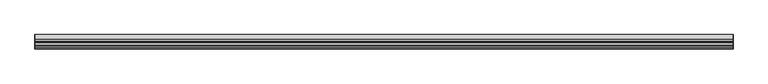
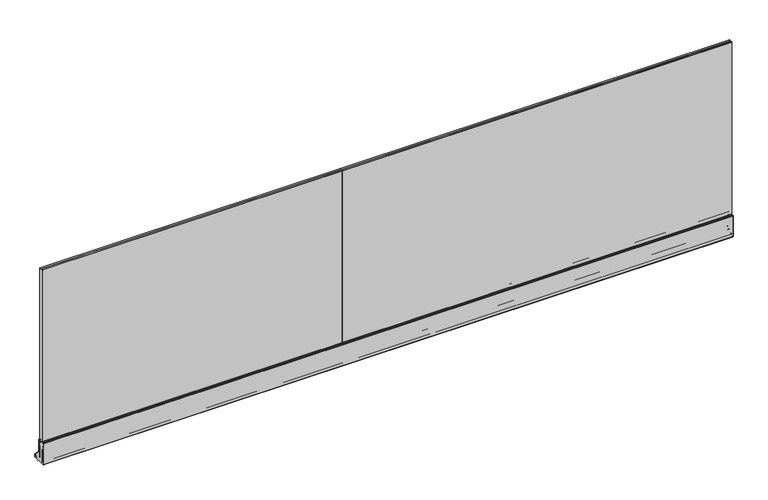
"""IFC4 building model written with IfcOpenShell, lengths in millimetres: railing geometry, Glass Rail EXL-12481 h=1100mm."""

from ifc_helpers import new_model, si_unit, point, frame, frame_2d, origin, place, context, project, spatial, polyline, circle_curve, trimmed, segment, composite_curve, outline, extrude, source, transform, mapped, element, save


def railing_be181984(model_context):
    return source(origin(), model_context, "Body", "SweptSolid", [
        extrude(outline(composite_curve([segment(trimmed(circle_curve(frame_2d((18775.6206658, 4319.5)), 0.5), [point((18775.6206658, 4320.0))], [point((18775.6206658, 4319.0))], False, "CARTESIAN"), True, "CONTINUOUS"), segment(polyline([(18775.6206658, 4319.0), (18775.6206658, 4300.0), (18774.6206658, 4299.4226497), (18778.4206658, 4276.5), (18778.4206658, 4211.0)]), True, "CONTINUOUS"), segment(trimmed(circle_curve(frame_2d((18779.4206658, 4211.0)), 1.0), [point((18778.4206658, 4211.0))], [point((18779.4206658, 4210.0))], True, "CARTESIAN"), True, "CONTINUOUS"), segment(polyline([(18779.4206658, 4210.0), (18802.4206658, 4210.0)]), True, "CONTINUOUS"), segment(trimmed(circle_curve(frame_2d((18802.4206658, 4211.0)), 1.0), [point((18802.4206658, 4210.0))], [point((18803.4206658, 4211.0))], True, "CARTESIAN"), True, "CONTINUOUS"), segment(polyline([(18803.4206658, 4211.0), (18803.4206658, 4230.0), (18807.4206658, 4319.0)]), True, "CONTINUOUS"), segment(trimmed(circle_curve(frame_2d((18807.4206658, 4319.5)), 0.5), [point((18807.4206658, 4319.0))], [point((18807.4206658, 4320.0))], False, "CARTESIAN"), True, "CONTINUOUS"), segment(polyline([(18807.4206658, 4320.0), (18810.9206658, 4320.0)]), True, "CONTINUOUS"), segment(trimmed(circle_curve(frame_2d((18810.9206658, 4319.0)), 1.0), [point((18810.9206658, 4320.0))], [point((18811.9206658, 4319.0))], False, "CARTESIAN"), True, "CONTINUOUS"), segment(polyline([(18811.9206658, 4319.0), (18811.9206658, 4240.6529004), (18814.9156406, 4237.6579257), (18814.9156406, 4233.415285), (18812.7742192, 4235.5567063)]), True, "CONTINUOUS"), segment(trimmed(circle_curve(frame_2d((18812.4206658, 4235.2031529)), 0.5), [point((18812.7742192, 4235.5567063))], [point((18811.9206658, 4235.2031529))], True, "CARTESIAN"), True, "CONTINUOUS"), segment(polyline([(18811.9206658, 4235.2031529), (18811.9206658, 4209.5)]), True, "CONTINUOUS"), segment(trimmed(circle_curve(frame_2d((18812.9206658, 4209.5)), 1.0), [point((18811.9206658, 4209.5))], [point((18812.9206658, 4208.5))], True, "CARTESIAN"), True, "CONTINUOUS"), segment(polyline([(18812.9206658, 4208.5), (18838.6238188, 4208.5)]), True, "CONTINUOUS"), segment(trimmed(circle_curve(frame_2d((18838.6238188, 4209.0)), 0.5), [point((18838.6238188, 4208.5))], [point((18838.9773722, 4209.3535534))], True, "CARTESIAN"), True, "CONTINUOUS"), segment(polyline([(18838.9773722, 4209.3535534), (18836.8359508, 4211.4949747), (18841.0785915, 4211.4949747), (18844.0735662, 4208.5), (18846.9206658, 4208.5), (18846.9206658, 4201.0)]), True, "CONTINUOUS"), segment(trimmed(circle_curve(frame_2d((18845.9206658, 4201.0)), 1.0), [point((18846.9206658, 4201.0))], [point((18845.9206658, 4200.0))], False, "CARTESIAN"), True, "CONTINUOUS"), segment(polyline([(18845.9206658, 4200.0), (18770.9206658, 4200.0)]), True, "CONTINUOUS"), segment(trimmed(circle_curve(frame_2d((18770.9206658, 4201.0)), 1.0), [point((18770.9206658, 4200.0))], [point((18769.9206658, 4201.0))], False, "CARTESIAN"), True, "CONTINUOUS"), segment(polyline([(18769.9206658, 4201.0), (18769.9206658, 4319.0)]), True, "CONTINUOUS"), segment(trimmed(circle_curve(frame_2d((18770.9206658, 4319.0)), 1.0), [point((18769.9206658, 4319.0))], [point((18770.9206658, 4320.0))], False, "CARTESIAN"), True, "CONTINUOUS"), segment(polyline([(18770.9206658, 4320.0), (18775.6206658, 4320.0)]), True, "CONTINUOUS")], self_intersect=False)), frame((16943.1337784, 0.0, 0.0), z_axis=(1.0, 0.0, 0.0), x_axis=(0.0, 1.0, 0.0)), (0.0, 0.0, 1.0), 3700.0),
        extrude(outline(composite_curve([segment(trimmed(circle_curve(frame_2d((18813.5452258, 4232.3277129)), 0.3), [point((18813.7573578, 4232.1155808))], [point((18813.255448, 4232.4053586))], False, "CARTESIAN"), True, "CONTINUOUS"), segment(polyline([(18813.255448, 4232.4053586), (18813.4833084, 4233.2557449), (18820.8991363, 4240.6715729), (18819.6707092, 4241.9), (18812.1334509, 4241.9), (18812.1334509, 4243.5), (18820.3334509, 4243.5), (18846.9206658, 4216.912785), (18846.9206658, 4208.712785), (18845.3206658, 4208.712785), (18845.3206658, 4216.2500433), (18844.0922387, 4217.4784705), (18836.6764108, 4210.0626425), (18835.8260244, 4209.8347822)]), True, "CONTINUOUS"), segment(trimmed(circle_curve(frame_2d((18835.7483787, 4210.1245599)), 0.3), [point((18835.8260244, 4209.8347822))], [point((18835.5362467, 4210.336692))], False, "CARTESIAN"), True, "CONTINUOUS"), segment(polyline([(18835.5362467, 4210.336692), (18843.3851319, 4218.1855772), (18821.6062431, 4239.9644661), (18813.7573578, 4232.1155808)]), True, "CONTINUOUS")], self_intersect=False)), frame((16943.1337784, 0.0, 0.0), z_axis=(1.0, 0.0, 0.0), x_axis=(0.0, 1.0, 0.0)), (0.0, 0.0, 1.0), 3700.0),
        extrude(outline(composite_curve([segment(trimmed(circle_curve(frame_2d((18775.6904567, 4319.85)), 0.5), [point((18776.1904567, 4319.85))], [point((18775.6904567, 4320.35))], True, "CARTESIAN"), True, "CONTINUOUS"), segment(polyline([(18775.6904567, 4320.35), (18774.4402309, 4320.239686)]), True, "CONTINUOUS"), segment(trimmed(circle_curve(frame_2d((18774.3888785, 4320.8216792)), 0.5842544), [point((18774.4402309, 4320.239686))], [point((18774.3126303, 4321.4009367))], False, "CARTESIAN"), True, "CONTINUOUS"), segment(trimmed(circle_curve(frame_2d((18764.4674797, 4396.1944554)), 75.4386998), [point((18774.3126303, 4321.4009367))], [point((18781.2746398, 4322.6518365))], True, "CARTESIAN"), True, "CONTINUOUS"), segment(trimmed(circle_curve(frame_2d((18778.7275554, 4330.9804663)), 8.7094037), [point((18781.2746398, 4322.6518365))], [point((18782.3309733, 4323.0514631))], True, "CARTESIAN"), True, "CONTINUOUS"), segment(trimmed(circle_curve(frame_2d((18782.4648996, 4322.7475881)), 0.3320787), [point((18782.3309733, 4323.0514631))], [point((18782.7010165, 4322.5140821))], False, "CARTESIAN"), True, "CONTINUOUS"), segment(polyline([(18782.7010165, 4322.5140821), (18781.5206658, 4321.6016227), (18781.5206658, 4213.0), (18800.5206658, 4213.0)]), True, "CONTINUOUS"), segment(trimmed(circle_curve(frame_2d((18800.5206658, 4212.0)), 1.0), [point((18800.5206658, 4213.0))], [point((18801.5206658, 4212.0))], False, "CARTESIAN"), True, "CONTINUOUS"), segment(polyline([(18801.5206658, 4212.0), (18801.5206658, 4211.0)]), True, "CONTINUOUS"), segment(trimmed(circle_curve(frame_2d((18800.5206658, 4211.0)), 1.0), [point((18801.5206658, 4211.0))], [point((18800.5206658, 4210.0))], False, "CARTESIAN"), True, "CONTINUOUS"), segment(polyline([(18800.5206658, 4210.0), (18779.4206658, 4210.0)]), True, "CONTINUOUS"), segment(trimmed(circle_curve(frame_2d((18779.4206658, 4211.0)), 1.0), [point((18779.4206658, 4210.0))], [point((18778.4206658, 4211.0))], False, "CARTESIAN"), True, "CONTINUOUS"), segment(polyline([(18778.4206658, 4211.0), (18778.4206658, 4276.5), (18774.6206658, 4299.4226497), (18775.6206658, 4300.0), (18775.6206658, 4318.4302091), (18776.1904567, 4319.0), (18776.1904567, 4319.85)]), True, "CONTINUOUS")], self_intersect=False)), frame((16943.1337784, 0.0, 0.0), z_axis=(1.0, 0.0, 0.0), x_axis=(0.0, 1.0, 0.0)), (0.0, 0.0, 1.0), 3700.0),
        extrude(outline(composite_curve([segment(trimmed(circle_curve(frame_2d((18804.0250473, 4308.5372817)), 1.5), [point((18804.0250473, 4307.0372817))], [point((18802.5250473, 4308.5372817))], False, "CARTESIAN"), True, "CONTINUOUS"), segment(polyline([(18802.5250473, 4308.5372817), (18802.5250473, 4310.9416639), (18801.6025599, 4312.0608288), (18802.6115713, 4313.2849649), (18801.4214939, 4314.4750423), (18802.6286007, 4315.6821491), (18801.4214939, 4316.8892559), (18802.6286007, 4318.0963627), (18801.4276708, 4319.2972925), (18802.295154, 4320.227594)]), True, "CONTINUOUS"), segment(trimmed(circle_curve(frame_2d((18801.4408553, 4320.7517158)), 1.0022624), [point((18802.295154, 4320.227594))], [point((18802.1521972, 4321.4577771))], True, "CARTESIAN"), True, "CONTINUOUS"), segment(polyline([(18802.1521972, 4321.4577771), (18801.0444875, 4322.3140821)]), True, "CONTINUOUS"), segment(trimmed(circle_curve(frame_2d((18801.2806043, 4322.5475881)), 0.3320787), [point((18801.0444875, 4322.3140821))], [point((18801.4145307, 4322.8514631))], False, "CARTESIAN"), True, "CONTINUOUS"), segment(trimmed(circle_curve(frame_2d((18805.0179486, 4330.7804663)), 8.7094037), [point((18801.4145307, 4322.8514631))], [point((18802.4708642, 4322.4518365))], True, "CARTESIAN"), True, "CONTINUOUS"), segment(trimmed(circle_curve(frame_2d((18817.2893145, 4379.3319631)), 58.7786974), [point((18802.4708642, 4322.4518365))], [point((18808.6759928, 4321.1877806))], True, "CARTESIAN"), True, "CONTINUOUS"), segment(trimmed(circle_curve(frame_2d((18808.5906749, 4320.6118425)), 0.5822232), [point((18808.6759928, 4321.1877806))], [point((18808.5395011, 4320.0318726))], False, "CARTESIAN"), True, "CONTINUOUS"), segment(polyline([(18808.5395011, 4320.0318726), (18807.2007235, 4320.15)]), True, "CONTINUOUS"), segment(trimmed(circle_curve(frame_2d((18807.2007235, 4319.65)), 0.5), [point((18807.2007235, 4320.15))], [point((18806.7007235, 4319.65))], True, "CARTESIAN"), True, "CONTINUOUS"), segment(polyline([(18806.7007235, 4319.65), (18806.7007235, 4318.8630833), (18807.2705144, 4318.2932925), (18807.2705144, 4310.3051746), (18805.9257243, 4307.0372817), (18804.0250473, 4307.0372817)]), True, "CONTINUOUS")], self_intersect=False)), frame((16943.1337784, 0.0, 0.0), z_axis=(1.0, 0.0, 0.0), x_axis=(0.0, 1.0, 0.0)), (0.0, 0.0, 1.0), 3700.0),
        extrude(outline(composite_curve([segment(trimmed(circle_curve(frame_2d((18802.2324164, 4289.5)), 0.5), [point((18801.7324164, 4289.5))], [point((18802.2324164, 4290.0))], False, "CARTESIAN"), True, "CONTINUOUS"), segment(polyline([(18802.2324164, 4290.0), (18805.5943184, 4290.0)]), True, "CONTINUOUS"), segment(trimmed(circle_curve(frame_2d((18805.5943184, 4289.5)), 0.5), [point((18805.5943184, 4290.0))], [point((18806.0938142, 4289.4775508))], False, "CARTESIAN"), True, "CONTINUOUS"), segment(polyline([(18806.0938142, 4289.4775508), (18803.1959368, 4224.9997789), (18802.2324164, 4224.9997789)]), True, "CONTINUOUS"), segment(trimmed(circle_curve(frame_2d((18802.2324164, 4225.4997789)), 0.5), [point((18802.2324164, 4224.9997789))], [point((18801.7324164, 4225.4997789))], False, "CARTESIAN"), True, "CONTINUOUS"), segment(polyline([(18801.7324164, 4225.4997789), (18801.7324164, 4289.5)]), True, "CONTINUOUS")], self_intersect=False)), frame((16943.1337784, 0.0, 0.0), z_axis=(1.0, 0.0, 0.0), x_axis=(0.0, 1.0, 0.0)), (0.0, 0.0, 1.0), 3700.0),
        extrude(outline(polyline([(18802.2706658, 4213.890625), (18801.3800408, 4213.0), (18793.3069158, 4213.0), (18792.4162908, 4213.890625), (18791.3650408, 4213.890625), (18790.4744158, 4213.0), (18782.4012908, 4213.0), (18781.5106658, 4213.890625), (18781.5106658, 5299.109375), (18782.4012908, 5300.0), (18790.4744158, 5300.0), (18791.3650408, 5299.109375), (18792.4162908, 5299.109375), (18793.3069158, 5300.0), (18801.3800408, 5300.0), (18802.2706658, 5299.109375), (18802.2706658, 4213.890625)])), frame((16943.1337784, 0.0, 0.0), z_axis=(1.0, 0.0, 0.0), x_axis=(0.0, 1.0, 0.0)), (0.0, 0.0, 1.0), 3700.0),
        extrude(outline(polyline([(18790.5044158, 5300.0), (18793.3369158, 5300.0), (18792.4462908, 5299.109375), (18791.3950408, 5299.109375), (18790.5044158, 5300.0)])), frame((16943.1337784, 0.0, 0.0), z_axis=(1.0, 0.0, 0.0), x_axis=(0.0, 1.0, 0.0)), (0.0, 0.0, 1.0), 3700.0),
        extrude(outline(polyline([(18802.2706658, 4213.8909545), (18801.3797113, 4213.0), (18782.4016204, 4213.0), (18781.5106658, 4213.8909545), (18781.5106658, 5299.1090455), (18782.4016204, 5300.0), (18801.3797113, 5300.0), (18802.2706658, 5299.1090455), (18802.2706658, 4213.8909545)])), frame((18552.6546701, 0.0, 0.0), z_axis=(1.0, 0.0, 0.0), x_axis=(0.0, 1.0, 0.0)), (0.0, 0.0, 1.0), 0.9582165),
        extrude(outline(composite_curve([segment(polyline([(18811.9206658, 4243.5), (18820.3306658, 4243.5), (18846.9206658, 4216.91), (18846.9206658, 4200.0), (18770.9206658, 4200.0)]), True, "CONTINUOUS"), segment(trimmed(circle_curve(frame_2d((18770.9206658, 4201.0)), 1.0), [point((18770.9206658, 4200.0))], [point((18769.9206658, 4201.0))], False, "CARTESIAN"), True, "CONTINUOUS"), segment(polyline([(18769.9206658, 4201.0), (18769.9206658, 4319.0)]), True, "CONTINUOUS"), segment(trimmed(circle_curve(frame_2d((18770.9206658, 4319.0)), 1.0), [point((18769.9206658, 4319.0))], [point((18770.9206658, 4320.0))], False, "CARTESIAN"), True, "CONTINUOUS"), segment(polyline([(18770.9206658, 4320.0), (18810.9206658, 4320.0)]), True, "CONTINUOUS"), segment(trimmed(circle_curve(frame_2d((18810.9206658, 4319.0)), 1.0), [point((18810.9206658, 4320.0))], [point((18811.9206658, 4319.0))], False, "CARTESIAN"), True, "CONTINUOUS"), segment(polyline([(18811.9206658, 4319.0), (18811.9206658, 4243.5)]), True, "CONTINUOUS")], self_intersect=False)), frame((16942.1337784, 0.0, 0.0), z_axis=(1.0, 0.0, 0.0), x_axis=(0.0, 1.0, 0.0)), (0.0, 0.0, 1.0), 1.0),
        extrude(outline(composite_curve([segment(polyline([(18811.9206658, 4243.5), (18820.3306658, 4243.5), (18846.9206658, 4216.91), (18846.9206658, 4200.0), (18770.9206658, 4200.0)]), True, "CONTINUOUS"), segment(trimmed(circle_curve(frame_2d((18770.9206658, 4201.0)), 1.0), [point((18770.9206658, 4200.0))], [point((18769.9206658, 4201.0))], False, "CARTESIAN"), True, "CONTINUOUS"), segment(polyline([(18769.9206658, 4201.0), (18769.9206658, 4319.0)]), True, "CONTINUOUS"), segment(trimmed(circle_curve(frame_2d((18770.9206658, 4319.0)), 1.0), [point((18769.9206658, 4319.0))], [point((18770.9206658, 4320.0))], False, "CARTESIAN"), True, "CONTINUOUS"), segment(polyline([(18770.9206658, 4320.0), (18810.9206658, 4320.0)]), True, "CONTINUOUS"), segment(trimmed(circle_curve(frame_2d((18810.9206658, 4319.0)), 1.0), [point((18810.9206658, 4320.0))], [point((18811.9206658, 4319.0))], False, "CARTESIAN"), True, "CONTINUOUS"), segment(polyline([(18811.9206658, 4319.0), (18811.9206658, 4243.5)]), True, "CONTINUOUS")], self_intersect=False)), frame((20643.1337784, 0.0, 0.0), z_axis=(1.0, 0.0, 0.0), x_axis=(0.0, 1.0, 0.0)), (0.0, 0.0, 1.0), 1.0),
    ])


if __name__ == "__main__":
    model = new_model("IFC4")
    model_context = context("Model", 3, world=origin())
    ifc_project = project(units=[si_unit("LENGTHUNIT", "METRE", prefix="MILLI")], contexts=[model_context])
    site = spatial("IfcSite", under=ifc_project)
    building = spatial("IfcBuilding", under=site)
    placement = place(None, origin())
    railing_shape = railing_be181984(model_context)
    element("IfcRailing", 1, ObjectType="Glass Rail EXL-12481 h=1100mm", at=placement, inside=building, context=model_context, shape_type="MappedRepresentation", body=[
        mapped(railing_shape, transform((0.0, 0.0, 0.0), x_axis=(1.0, 0.0, 0.0), y_axis=(0.0, 1.0, 0.0), z_axis=(0.0, 0.0, 1.0))),
    ])
    save(model, "model.ifc")
